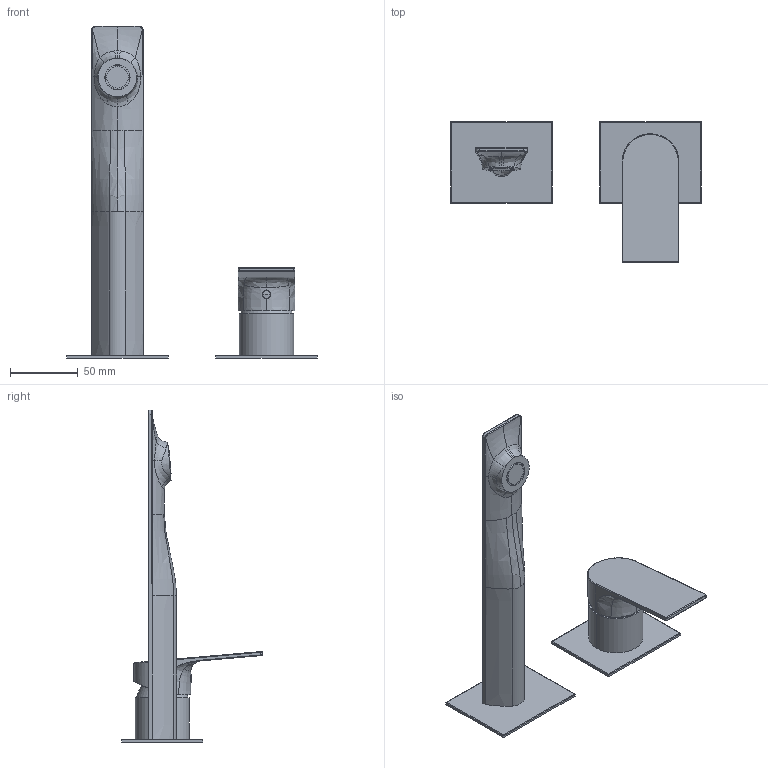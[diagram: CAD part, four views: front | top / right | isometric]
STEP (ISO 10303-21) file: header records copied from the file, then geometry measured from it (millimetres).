
FILE_DESCRIPTION((''),'2;1');
FILE_NAME('78547_SW0001','2020-09-22T11:29:35',('volponeff'),(''),'CREO PARAMETRIC BY PTC INC, 2018100','CREO PARAMETRIC BY PTC INC, 2018100','');
FILE_SCHEMA(('CONFIG_CONTROL_DESIGN'));
Length unit declared in the file: millimetre
Products named in the file (1): 78547_SW0001
Bounding box: 185 x 103.79 x 245 mm (x, y, z)
Volume: 195511.3 mm3; surface area: 62058.2 mm2
Topology: 3 solids, 5 shells, 249 faces, 603 edges, 364 vertices
Faces by surface type: plane 86, cylinder 66, bspline 57, cone 18, torus 14, extrusion 6, sphere 2
Entity records: 12685 total; most frequent: CARTESIAN_POINT 7270, ORIENTED_EDGE 1198, DIRECTION 984, EDGE_CURVE 599, VERTEX_POINT 364, AXIS2_PLACEMENT_3D 348, VECTOR 288, LINE 282
